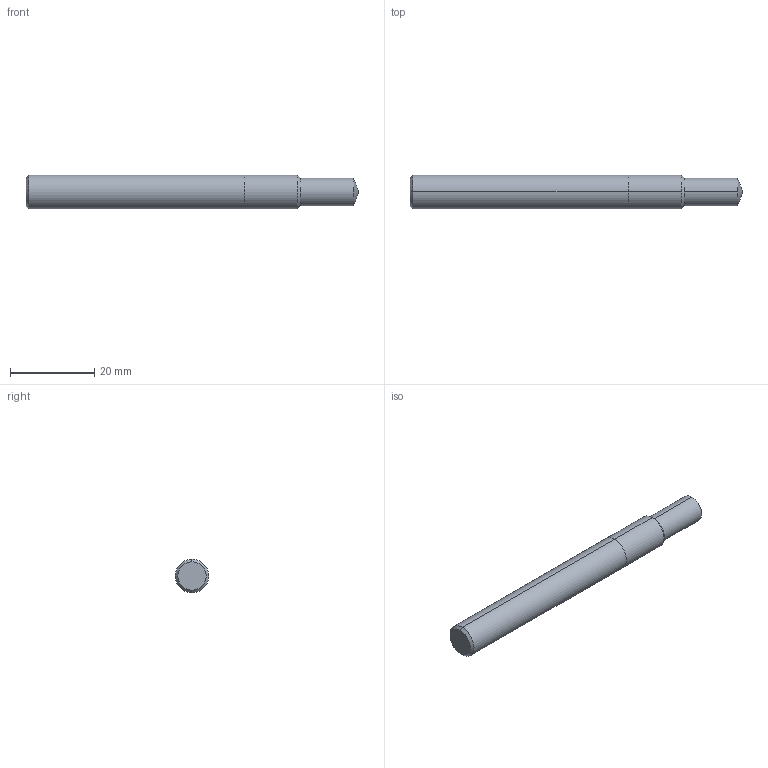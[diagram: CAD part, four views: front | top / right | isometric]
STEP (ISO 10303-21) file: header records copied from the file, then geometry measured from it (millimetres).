
FILE_DESCRIPTION (( 'STEP AP203' ), '1' );
FILE_NAME ('407036-RD-AS5202-02A.STEP', '2024-10-02T14:14:32', ( '' ), ( '' ), 'SwSTEP 2.0', 'SolidWorks 2024', '' );
FILE_SCHEMA (( 'CONFIG_CONTROL_DESIGN' ));
Length unit declared in the file: inch
Products named in the file (1): 407036-RD-AS5202-02A
Bounding box: 79 x 8 x 8 mm (x, y, z)
Volume: 3719 mm3; surface area: 1985.7 mm2
Topology: 1 solids, 1 shells, 16 faces, 30 edges, 16 vertices
Faces by surface type: cone 8, cylinder 6, plane 2
Entity records: 473 total; most frequent: DIRECTION 80, CARTESIAN_POINT 63, ORIENTED_EDGE 60, AXIS2_PLACEMENT_3D 33, EDGE_CURVE 30, VERTEX_POINT 16, EDGE_LOOP 16, CIRCLE 16
